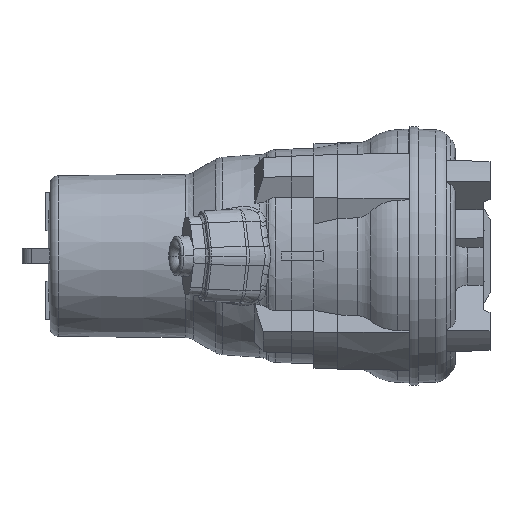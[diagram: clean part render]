
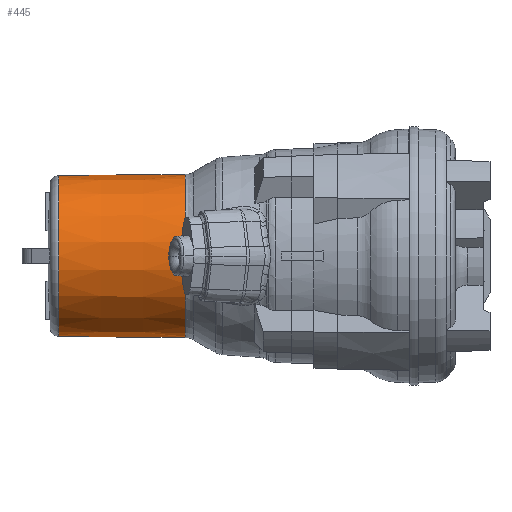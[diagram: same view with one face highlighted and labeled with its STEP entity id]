
A CAD part, left-side view. The second image highlights one B-rep face of the part: STEP entity #445.
In plain terms, the highlighted conical face has half-angle 0.524 degrees and reference radius 95 mm.
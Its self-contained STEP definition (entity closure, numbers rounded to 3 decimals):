
#300 = CARTESIAN_POINT ( 'NONE',  ( 0., 129.261, 0. ) ) ;
#309 = VERTEX_POINT ( 'NONE', #4783 ) ;
#445 = ADVANCED_FACE ( 'NONE', ( #3610 ), #10139, .T. ) ;
#558 = DIRECTION ( 'NONE',  ( 0., 0., -1. ) ) ;
#1024 = CIRCLE ( 'NONE', #16119, 96.452 ) ;
#2141 = CARTESIAN_POINT ( 'NONE',  ( 0., 288., 95. ) ) ;
#3092 = VERTEX_POINT ( 'NONE', #21356 ) ;
#3395 = ORIENTED_EDGE ( 'NONE', *, *, #8670, .F. ) ;
#3610 = FACE_OUTER_BOUND ( 'NONE', #24977, .T. ) ;
#4496 = DIRECTION ( 'NONE',  ( 0., -1., 0. ) ) ;
#4783 = CARTESIAN_POINT ( 'NONE',  ( 0., 129.261, -96.452 ) ) ;
#6376 = CARTESIAN_POINT ( 'NONE',  ( 0., 288., -95. ) ) ;
#7693 = AXIS2_PLACEMENT_3D ( 'NONE', #20630, #25109, #15366 ) ;
#8438 = DIRECTION ( 'NONE',  ( 0., 0., 1. ) ) ;
#8670 = EDGE_CURVE ( 'NONE', #24618, #14655, #21444, .T. ) ;
#10139 = CONICAL_SURFACE ( 'NONE', #7693, 95., 0.009 ) ;
#10348 = VECTOR ( 'NONE', #14166, 1000. ) ;
#10930 = EDGE_CURVE ( 'NONE', #309, #14655, #1024, .T. ) ;
#12287 = AXIS2_PLACEMENT_3D ( 'NONE', #23928, #4496, #8438 ) ;
#13817 = CARTESIAN_POINT ( 'NONE',  ( 0., 278.855, 95.084 ) ) ;
#14166 = DIRECTION ( 'NONE',  ( 0., -1., -0.009 ) ) ;
#14232 = CARTESIAN_POINT ( 'NONE',  ( 0., 129.261, 96.452 ) ) ;
#14655 = VERTEX_POINT ( 'NONE', #14232 ) ;
#15366 = DIRECTION ( 'NONE',  ( 0., 0., -1. ) ) ;
#15636 = ORIENTED_EDGE ( 'NONE', *, *, #22262, .T. ) ;
#15910 = ORIENTED_EDGE ( 'NONE', *, *, #17397, .T. ) ;
#16018 = DIRECTION ( 'NONE',  ( 0., 1., 0. ) ) ;
#16095 = LINE ( 'NONE', #6376, #10348 ) ;
#16119 = AXIS2_PLACEMENT_3D ( 'NONE', #300, #16018, #558 ) ;
#17397 = EDGE_CURVE ( 'NONE', #3092, #309, #16095, .T. ) ;
#18715 = VECTOR ( 'NONE', #23748, 1000. ) ;
#19640 = CIRCLE ( 'NONE', #12287, 95.084 ) ;
#20630 = CARTESIAN_POINT ( 'NONE',  ( 0., 288., 0. ) ) ;
#21356 = CARTESIAN_POINT ( 'NONE',  ( 0., 278.855, -95.084 ) ) ;
#21444 = LINE ( 'NONE', #2141, #18715 ) ;
#22262 = EDGE_CURVE ( 'NONE', #24618, #3092, #19640, .T. ) ;
#23748 = DIRECTION ( 'NONE',  ( 0., -1., 0.009 ) ) ;
#23767 = ORIENTED_EDGE ( 'NONE', *, *, #10930, .T. ) ;
#23928 = CARTESIAN_POINT ( 'NONE',  ( 0., 278.855, 0. ) ) ;
#24618 = VERTEX_POINT ( 'NONE', #13817 ) ;
#24977 = EDGE_LOOP ( 'NONE', ( #3395, #15636, #15910, #23767 ) ) ;
#25109 = DIRECTION ( 'NONE',  ( 0., -1., 0. ) ) ;
